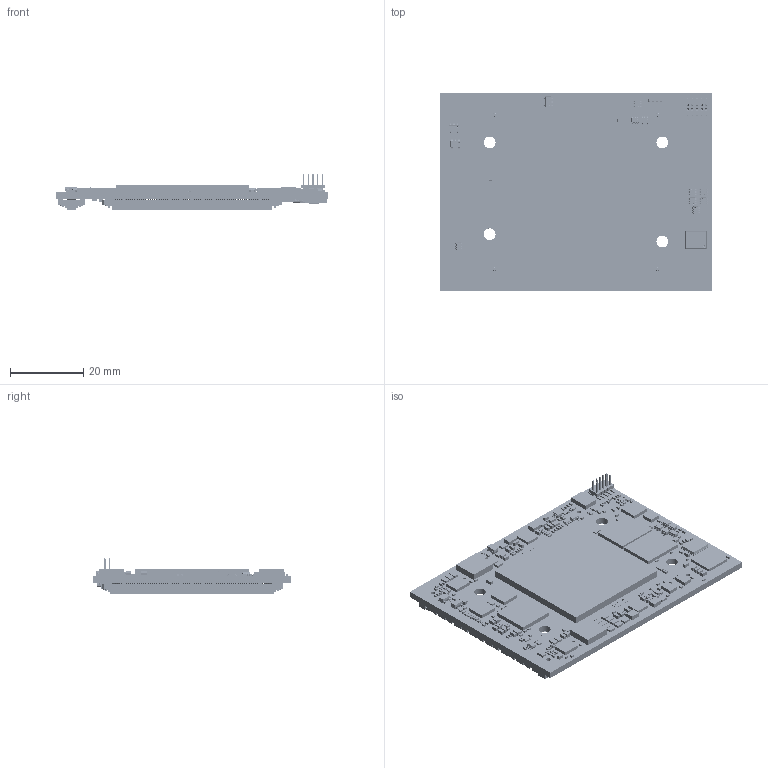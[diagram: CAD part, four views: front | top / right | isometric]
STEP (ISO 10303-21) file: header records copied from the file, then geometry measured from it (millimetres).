
FILE_DESCRIPTION(('Open CASCADE Model'),'2;1');
FILE_NAME('Open CASCADE Shape Model','2016-08-10T14:24:09',('Author'),( 'Open CASCADE'),'Open CASCADE STEP processor 6.8','Open CASCADE 6.8' ,'Unknown');
FILE_SCHEMA(('AUTOMOTIVE_DESIGN { 1 0 10303 214 1 1 1 1 }'));
Length unit declared in the file: millimetre
Products named in the file (582): --
Assembly tree (1040 placements, depth 4):
  --
    --
    --
      --  x4
      --  x4
    --
      --
    --
      --
    --
      --
    --
      --
    --
      --
    --
      --
    --
      --
    --
      --
    --
      --
    --
      --
    --
      --
    --
      --
    --
      --
    --
      --
    --
      --
    --
      --
    --
      --
    --
      --
    --
      --
    --
      --
    --
      --
    --
      --
    --
      --
        --
      --
        --
    --
      --
        --
      --
        --
    --
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Bounding box: 73.8 x 54 x 10.03 mm (x, y, z)
Volume: 11969.8 mm3; surface area: 21054.5 mm2
Topology: 1294 solids, 1294 shells, 21293 faces, 51686 edges, 33823 vertices
Faces by surface type: plane 19439, bspline 913, cylinder 866, sphere 53, cone 22
Full cylindrical faces by diameter (mm): 0.2 x5, 0.3 x3, 0.4 x10, 1.1 x3, 1.2 x3, 3.2 x12, 6 x4, 6.4 x4
Entity records: 439381 total; most frequent: CARTESIAN_POINT 144812, DIRECTION 46041, LINE 33464, VECTOR 33464, ORIENTED_EDGE 25496, PCURVE 25496, DEFINITIONAL_REPRESENTATION 25496, EDGE_CURVE 12748
